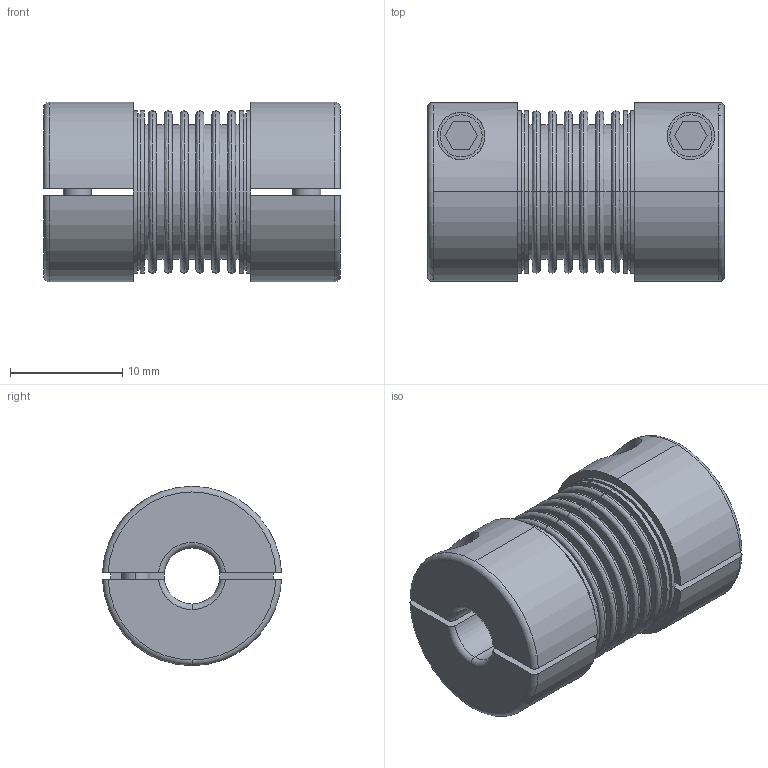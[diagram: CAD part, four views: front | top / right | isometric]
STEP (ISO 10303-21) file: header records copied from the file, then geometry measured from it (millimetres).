
FILE_DESCRIPTION (( 'STEP AP203' ), '1' );
FILE_NAME ('GMT-FACB16.STEP', '2008-04-17T02:12:11', ( 'user' ), ( '' ), 'SwSTEP 2.0', 'SolidWorks 2007', '' );
FILE_SCHEMA (( 'CONFIG_CONTROL_DESIGN' ));
Length unit declared in the file: millimetre
Products named in the file (1): GMT-FACB16
Bounding box: 26.5 x 15.99 x 16 mm (x, y, z)
Volume: 3826.5 mm3; surface area: 3320.7 mm2
Topology: 1 solids, 1 shells, 155 faces, 353 edges, 227 vertices
Faces by surface type: plane 61, cylinder 58, bspline 24, torus 12
Entity records: 4981 total; most frequent: CARTESIAN_POINT 1446, DIRECTION 742, ORIENTED_EDGE 706, EDGE_CURVE 353, AXIS2_PLACEMENT_3D 307, VERTEX_POINT 227, EDGE_LOOP 188, CIRCLE 175
